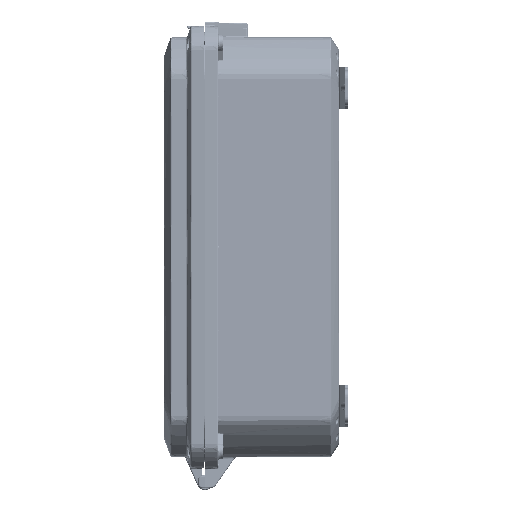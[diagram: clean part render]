
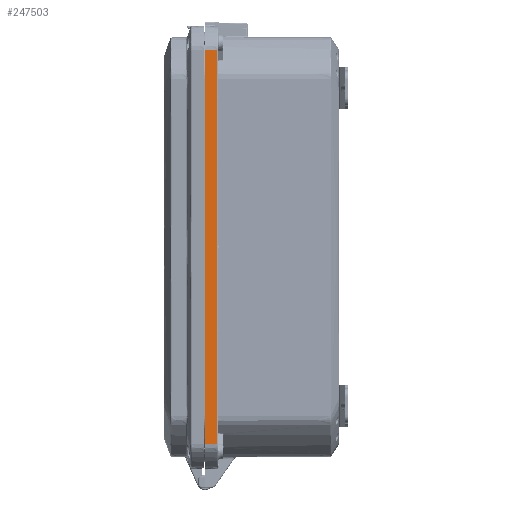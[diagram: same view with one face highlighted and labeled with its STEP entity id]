
A CAD part, left-side view. The second image highlights one B-rep face of the part: STEP entity #247503.
In plain terms, the highlighted planar face has unit normal (-0.999, -0.035, 0).
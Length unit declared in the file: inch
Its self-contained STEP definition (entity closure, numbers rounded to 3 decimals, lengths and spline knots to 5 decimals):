
#8323 = LINE ( 'NONE', #267003, #53249 ) ;
#15181 = ORIENTED_EDGE ( 'NONE', *, *, #21781, .F. ) ;
#21781 = EDGE_CURVE ( 'NONE', #199777, #113175, #166799, .T. ) ;
#26453 = EDGE_CURVE ( 'NONE', #188460, #199777, #154314, .T. ) ;
#27424 = CARTESIAN_POINT ( 'NONE',  ( -7.60772, -0.35174, 5.89046 ) ) ;
#35214 = EDGE_CURVE ( 'NONE', #188460, #246282, #104236, .T. ) ;
#48454 = DIRECTION ( 'NONE',  ( -0.999, -0.035, 0. ) ) ;
#53249 = VECTOR ( 'NONE', #97354, 39.37008 ) ;
#81596 = VECTOR ( 'NONE', #90751, 39.37008 ) ;
#84894 = CARTESIAN_POINT ( 'NONE',  ( -7.60772, -0.35174, -5.89046 ) ) ;
#90751 = DIRECTION ( 'NONE',  ( 0., 0., 1. ) ) ;
#95182 = EDGE_LOOP ( 'NONE', ( #182617, #15181, #240513, #183350 ) ) ;
#97354 = DIRECTION ( 'NONE',  ( 0., 0., 1. ) ) ;
#103787 = FACE_OUTER_BOUND ( 'NONE', #95182, .T. ) ;
#104236 = LINE ( 'NONE', #191708, #236851 ) ;
#113175 = VERTEX_POINT ( 'NONE', #27424 ) ;
#134725 = CARTESIAN_POINT ( 'NONE',  ( -7.62, 0., 6.3 ) ) ;
#154314 = LINE ( 'NONE', #198133, #81596 ) ;
#166799 = LINE ( 'NONE', #271519, #261012 ) ;
#172859 = DIRECTION ( 'NONE',  ( 0.035, -0.999, 0. ) ) ;
#182617 = ORIENTED_EDGE ( 'NONE', *, *, #235829, .T. ) ;
#183350 = ORIENTED_EDGE ( 'NONE', *, *, #35214, .T. ) ;
#186602 = DIRECTION ( 'NONE',  ( 0.035, -0.999, 0. ) ) ;
#187325 = CARTESIAN_POINT ( 'NONE',  ( -7.62, 0., -5.89046 ) ) ;
#188460 = VERTEX_POINT ( 'NONE', #187325 ) ;
#189875 = PLANE ( 'NONE',  #224208 ) ;
#191708 = CARTESIAN_POINT ( 'NONE',  ( -7.62, 0., -5.89046 ) ) ;
#198133 = CARTESIAN_POINT ( 'NONE',  ( -7.62, 0., 6.3 ) ) ;
#199777 = VERTEX_POINT ( 'NONE', #256036 ) ;
#224208 = AXIS2_PLACEMENT_3D ( 'NONE', #134725, #48454, #172859 ) ;
#231400 = DIRECTION ( 'NONE',  ( 0.035, -0.999, 0. ) ) ;
#235829 = EDGE_CURVE ( 'NONE', #246282, #113175, #8323, .T. ) ;
#236851 = VECTOR ( 'NONE', #231400, 39.37008 ) ;
#240513 = ORIENTED_EDGE ( 'NONE', *, *, #26453, .F. ) ;
#246282 = VERTEX_POINT ( 'NONE', #84894 ) ;
#247503 = ADVANCED_FACE ( 'NONE', ( #103787 ), #189875, .T. ) ;
#256036 = CARTESIAN_POINT ( 'NONE',  ( -7.62, 0., 5.89046 ) ) ;
#261012 = VECTOR ( 'NONE', #186602, 39.37008 ) ;
#267003 = CARTESIAN_POINT ( 'NONE',  ( -7.60772, -0.35174, 5.89046 ) ) ;
#271519 = CARTESIAN_POINT ( 'NONE',  ( -7.62, 0., 5.89046 ) ) ;
